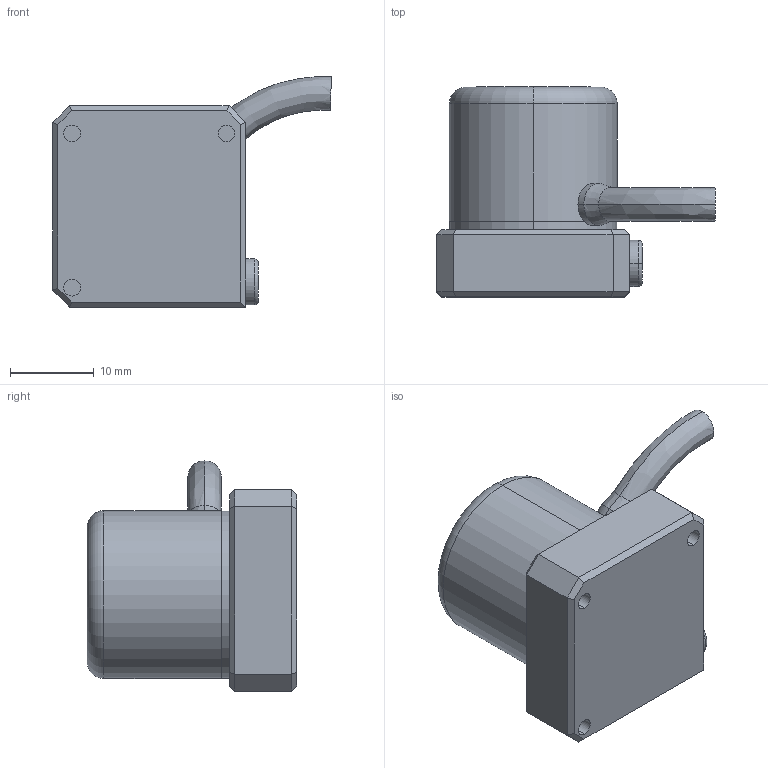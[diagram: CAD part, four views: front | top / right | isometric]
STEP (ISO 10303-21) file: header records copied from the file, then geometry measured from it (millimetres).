
FILE_DESCRIPTION (( 'STEP AP214' ), '1' );
FILE_NAME ('DS_DX_Part1.STEP', '2025-01-28T00:59:31', ( '' ), ( '' ), 'SwSTEP 2.0', 'SolidWorks 2023', '' );
FILE_SCHEMA (( 'AUTOMOTIVE_DESIGN' ));
Length unit declared in the file: millimetre
Products named in the file (1): DS_DX_Part1
Bounding box: 33.18 x 25 x 27.43 mm (x, y, z)
Volume: 9831.2 mm3; surface area: 3140.6 mm2
Topology: 2 solids, 2 shells, 56 faces, 113 edges, 68 vertices
Faces by surface type: plane 32, cylinder 16, torus 4, bspline 2, cone 2
Entity records: 1585 total; most frequent: CARTESIAN_POINT 364, DIRECTION 261, ORIENTED_EDGE 226, EDGE_CURVE 113, AXIS2_PLACEMENT_3D 97, VERTEX_POINT 68, VECTOR 67, LINE 67
